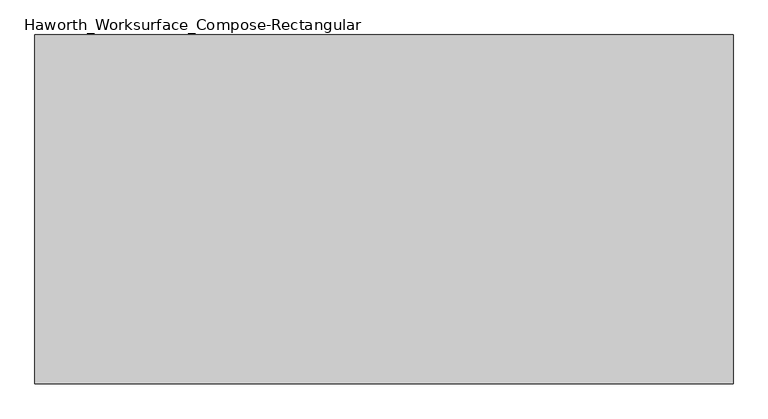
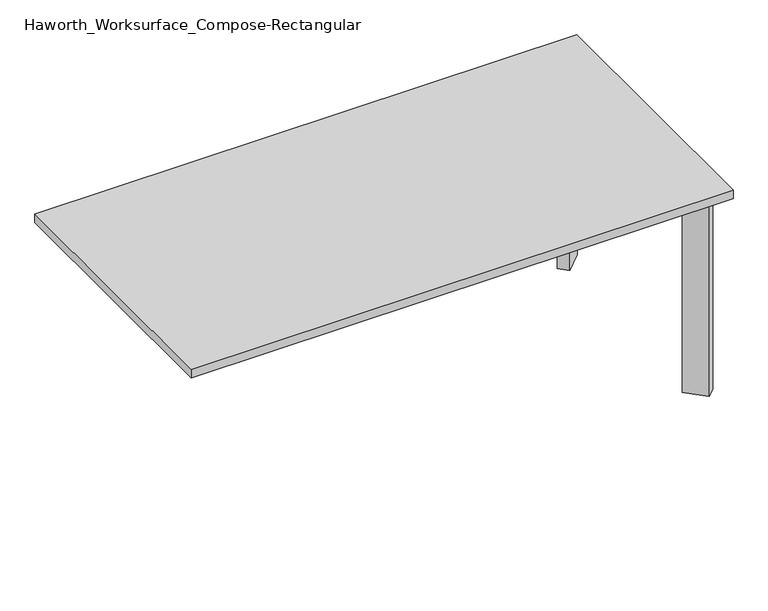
"""IFC4 building model written with IfcOpenShell, lengths in millimetres: furniture geometry, Haworth_Worksurface_Compose-Rectangular : 36'' x 72''."""

from ifc_helpers import new_model, si_unit, frame, origin, origin_with_axes, place, context, project, spatial, polyline, outline, extrude, source, transform, mapped, element, save


def haworth_worksurface_compose_rectangular_3a3764a9(model_context):
    return source(origin(), model_context, "Body", "SweptSolid", [
        extrude(outline(polyline([(853.9154482, -423.6562166), (795.5437834, -365.2845518), (822.4845518, -338.3437834), (880.8562166, -396.7154482), (853.9154482, -423.6562166)])), origin_with_axes(), (0.0, 0.0, 1.0), 706.4375),
        extrude(outline(polyline([(822.4845518, 338.3437834), (795.5437834, 365.2845518), (853.9154482, 423.6562166), (880.8562166, 396.7154482), (822.4845518, 338.3437834)])), origin_with_axes(), (0.0, 0.0, 1.0), 706.4375),
        extrude(outline(polyline([(914.4, 457.2), (914.4, -457.2), (-914.4, -457.2), (-914.4, 457.2), (914.4, 457.2)])), frame((0.0, 0.0, 706.4375), z_axis=(0.0, 0.0, 1.0), x_axis=(1.0, 0.0, 0.0)), (0.0, 0.0, 1.0), 30.1625),
    ])


if __name__ == "__main__":
    model = new_model("IFC4")
    model_context = context("Model", 3, world=origin())
    ifc_project = project(units=[si_unit("LENGTHUNIT", "METRE", prefix="MILLI")], contexts=[model_context])
    site = spatial("IfcSite", under=ifc_project)
    building = spatial("IfcBuilding", under=site)
    placement = place(None, origin())
    haworth_worksurface_compose_rectangular_shape = haworth_worksurface_compose_rectangular_3a3764a9(model_context)
    element("IfcFurniture", 1, ObjectType="Haworth_Worksurface_Compose-Rectangular : 36'' x 72''", at=placement, inside=building, context=model_context, shape_type="MappedRepresentation", body=[
        mapped(haworth_worksurface_compose_rectangular_shape, transform((0.0, 0.0, 0.0), x_axis=(1.0, 0.0, 0.0), y_axis=(0.0, 1.0, 0.0), z_axis=(0.0, 0.0, 1.0))),
    ])
    save(model, "model.ifc")
